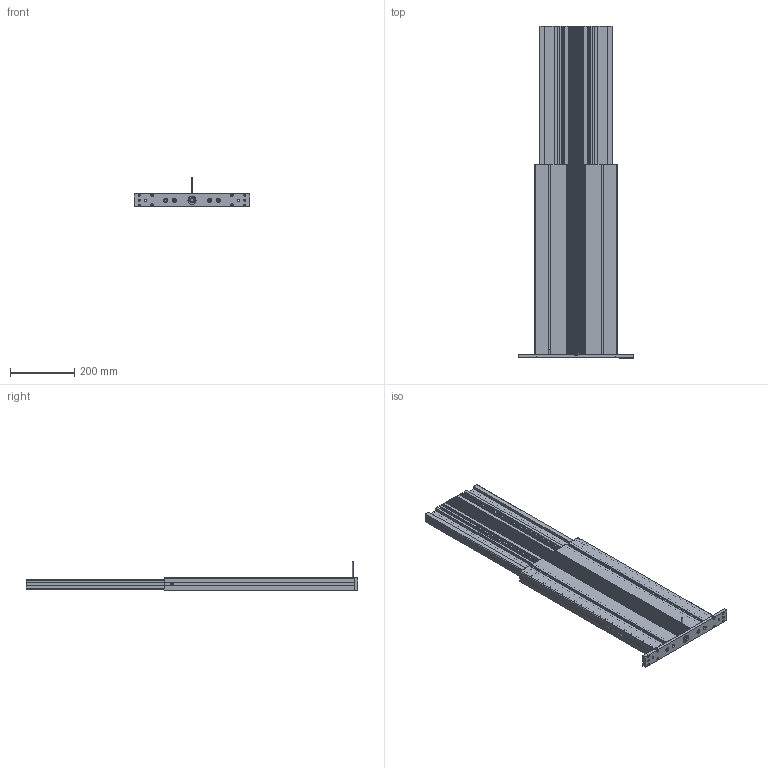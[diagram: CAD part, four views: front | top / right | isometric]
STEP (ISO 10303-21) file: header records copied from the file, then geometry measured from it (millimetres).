
FILE_DESCRIPTION(/* description */ ('Unknown'),/* implementation_level */ '2;1');
FILE_NAME(/* name */ '306.00385 Tischbein TT 1840 A637_ausgefahren',/* time_stamp */ '2018-04-05T15:05:04+02:00',/* author */ ('Unknown'),/* organization */ ('Unknown'),/* preprocessor_version */ 'ST-DEVELOPER v16.7',/* originating_system */ 'DEX',/* authorisation */ $);
FILE_SCHEMA (('AUTOMOTIVE_DESIGN {1 0 10303 214 3 1 1}'));
Products named in the file (19): 306.00385; 115.00064_oa_0; 119.00201; 119.00152; 126.00121; 142.00188; 113.00002_70mm; 124.00004; 142.00166; 109.00025_oa_1; 142.00021; 125.00021; 115.00008_oa_2; 125.00063; 126.00102; 142.00081; 142.00158; 143.00045; 142.00031
Assembly tree (23 placements, depth 3):
  306.00385
    115.00064_oa_0
      119.00201
      119.00152
      126.00121  x2
      142.00188  x2
    113.00002_70mm
    124.00004
    142.00166  x4
    109.00025_oa_1
      142.00021
      125.00021
      115.00008_oa_2
      125.00063
    126.00102
    142.00081
    142.00158
    143.00045
    142.00031
Bounding box: 360 x 1037 x 91.5 mm (x, y, z)
Volume: 2514986.6 mm3; surface area: 1905676.2 mm2
Topology: 20 solids, 20 shells, 2278 faces, 6603 edges, 4384 vertices
Faces by surface type: plane 1438, cylinder 799, cone 22, torus 14, sphere 5
Full cylindrical faces by diameter (mm): 1.8 x2, 2.2 x1, 3 x1, 3.242 x2, 3.5 x1, 4 x3, 4.1 x1, 4.2 x1, 4.917 x1, 5 x4, 5.5 x4, 6 x1, 6.6 x4, 6.647 x8, 6.917 x2, 8 x7, 8.5 x4, 8.7 x4, 9 x1, 10 x1, 12 x1, 12.5 x5, 13 x2, 13.5 x1, 14.4 x1, 17.9 x2, 20 x1, 25 x1, 30 x1
Entity records: 78888 total; most frequent: CARTESIAN_POINT 13106, ORIENTED_EDGE 12236, DIRECTION 11887, EDGE_CURVE 6118, LINE 4233, VECTOR 4233, VERTEX_POINT 4119, AXIS2_PLACEMENT_3D 3827
